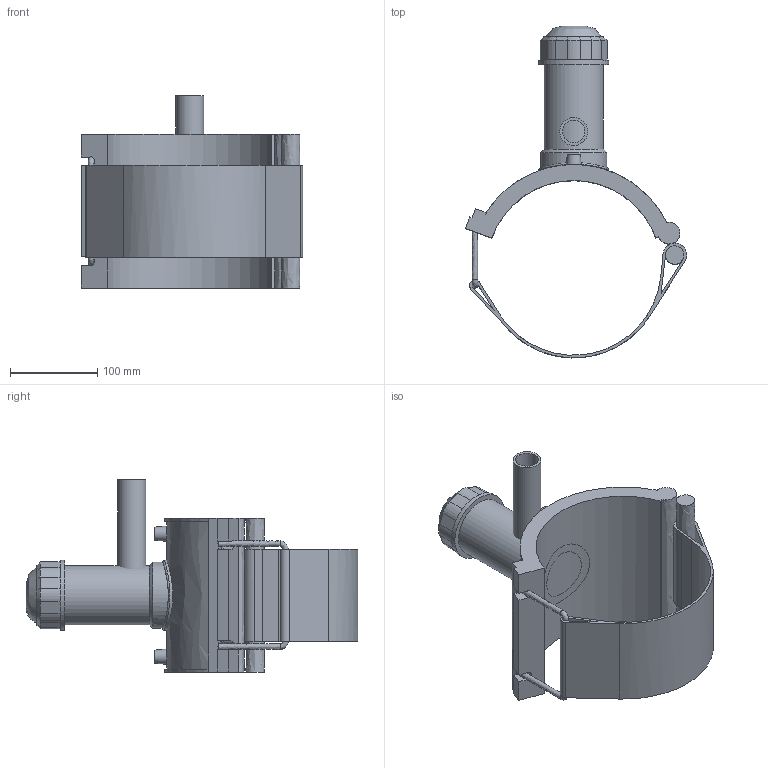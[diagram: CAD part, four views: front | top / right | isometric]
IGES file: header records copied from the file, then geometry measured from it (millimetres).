
Global section: file name: 4963P4200032; native system: Autodesk Inventor 2019; preprocessor: unknown; author: KIM; date: 20220317.113138; units: millimetre
Bounding box: 253.18 x 379.97 x 220 mm (x, y, z)
Volume: 1523850 mm3; surface area: 336069.1 mm2
Topology: 3 solids, 3 shells, 122 faces, 309 edges, 201 vertices
Faces by surface type: bspline 122
